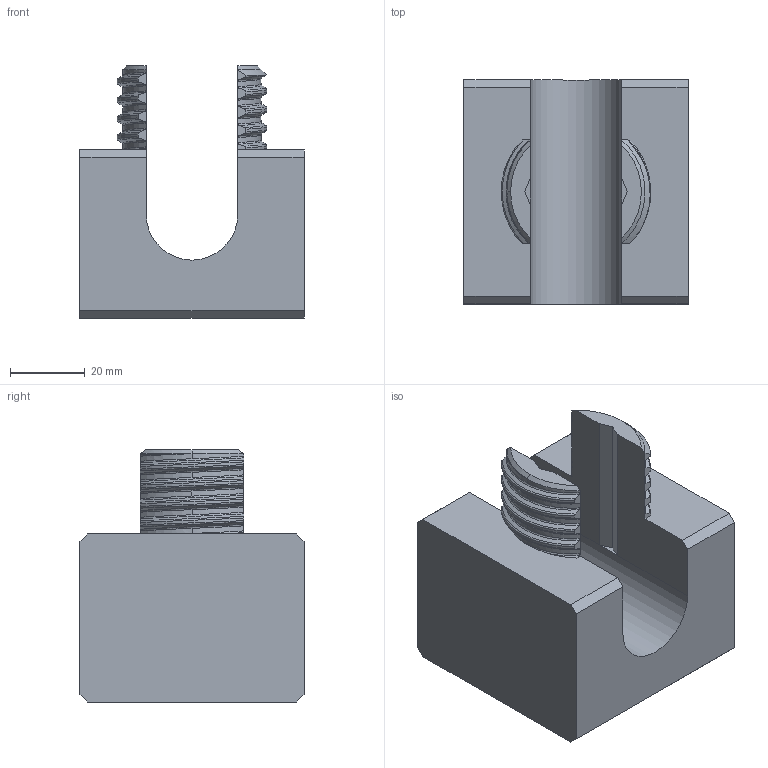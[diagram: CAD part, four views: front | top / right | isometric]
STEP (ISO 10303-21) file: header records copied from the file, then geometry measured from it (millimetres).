
FILE_DESCRIPTION (( 'STEP AP214' ), '1' );
FILE_NAME ('DS_v2A_DrziakL.STEP', '2026-03-22T08:46:17', ( '' ), ( '' ), 'SwSTEP 2.0', 'SolidWorks 2026', '' );
FILE_SCHEMA (( 'AUTOMOTIVE_DESIGN' ));
Length unit declared in the file: millimetre
Products named in the file (1): DS_v2A_DrziakL
Bounding box: 60 x 60 x 67.5 mm (x, y, z)
Volume: 117079.8 mm3; surface area: 23909.5 mm2
Topology: 1 solids, 1 shells, 132 faces, 347 edges, 217 vertices
Faces by surface type: bspline 65, plane 49, cylinder 15, cone 3
Entity records: 39379 total; most frequent: CARTESIAN_POINT 36900, ORIENTED_EDGE 694, EDGE_CURVE 347, DIRECTION 269, VERTEX_POINT 217, B_SPLINE_CURVE_WITH_KNOTS 136, FACE_OUTER_BOUND 132, EDGE_LOOP 132
